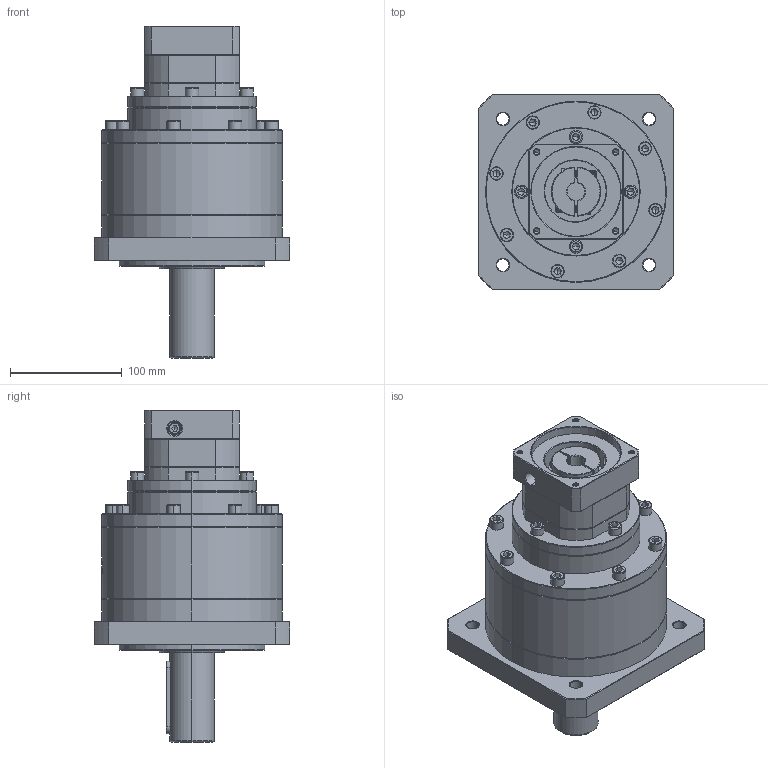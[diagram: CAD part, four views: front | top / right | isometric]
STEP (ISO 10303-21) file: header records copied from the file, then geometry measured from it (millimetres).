
FILE_DESCRIPTION (( 'STEP AP214' ), '1' );
FILE_NAME ('ZF160A-D40-L3-16-80-100-M6.step', '2023-03-22T07:11:25', ( '' ), ( '' ), 'SwSTEP 2.0', 'SolidWorks 2016', '' );
FILE_SCHEMA (( 'AUTOMOTIVE_DESIGN' ));
Length unit declared in the file: millimetre
Products named in the file (1): ZF160A-D40-L3-16-80-100-M6
Bounding box: 175 x 175 x 297.2 mm (x, y, z)
Volume: 3397639.5 mm3; surface area: 227267.4 mm2
Topology: 5 solids, 6 shells, 1849 faces, 4680 edges, 2951 vertices
Faces by surface type: plane 776, cylinder 464, cone 344, bspline 204, torus 61
Entity records: 97466 total; most frequent: CARTESIAN_POINT 34911, ORIENTED_EDGE 9252, DIRECTION 8115, EDGE_CURVE 4626, VERTEX_POINT 2951, AXIS2_PLACEMENT_3D 2807, VECTOR 2501, LINE 2501
